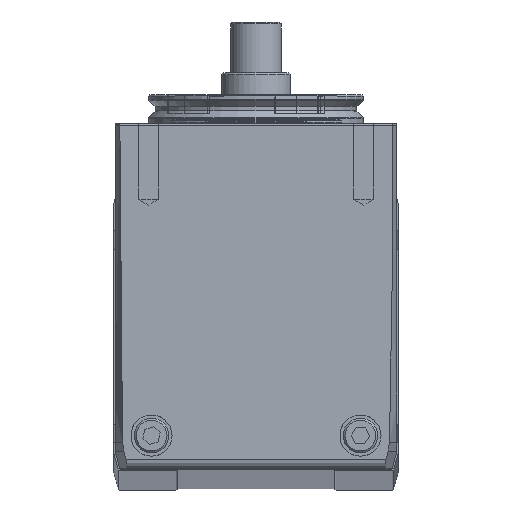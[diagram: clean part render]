
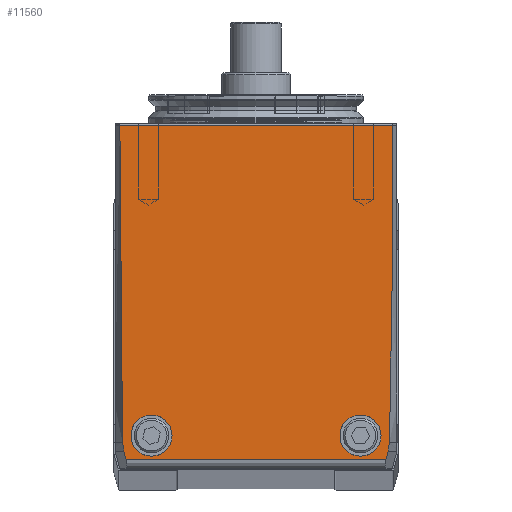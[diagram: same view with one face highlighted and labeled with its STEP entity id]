
A CAD part, top view. The second image highlights one B-rep face of the part: STEP entity #11560.
In plain terms, the highlighted planar face has unit normal (0, 0, 1) as drawn and (0, 1, 0) by its records, which use the part's own axes.
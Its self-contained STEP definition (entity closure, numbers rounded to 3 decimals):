
#118=B_SPLINE_CURVE_WITH_KNOTS('',3,(#24214,#24215,#24216,#24217),
 .UNSPECIFIED.,.F.,.F.,(4,4),(0.,0.001),.UNSPECIFIED.);
#119=B_SPLINE_CURVE_WITH_KNOTS('',3,(#24219,#24220,#24221,#24222,#24223,
#24224,#24225,#24226,#24227,#24228,#24229,#24230),.UNSPECIFIED.,.F.,.F.,
(4,1,1,1,1,1,1,1,1,4),(0.,0.003,0.006,0.008,
0.009,0.013,0.019,0.025,
0.038,0.05),.UNSPECIFIED.);
#120=B_SPLINE_CURVE_WITH_KNOTS('',3,(#24231,#24232,#24233,#24234,#24235,
#24236,#24237,#24238,#24239,#24240,#24241,#24242),.UNSPECIFIED.,.F.,.F.,
(4,1,1,1,1,1,1,1,1,4),(0.,0.013,0.025,0.031,
0.038,0.041,0.042,0.044,
0.047,0.05),.UNSPECIFIED.);
#121=B_SPLINE_CURVE_WITH_KNOTS('',3,(#24244,#24245,#24246,#24247),
 .UNSPECIFIED.,.F.,.F.,(4,4),(0.,0.001),.UNSPECIFIED.);
#930=CIRCLE('',#17012,3.25);
#931=CIRCLE('',#17013,3.25);
#3546=ORIENTED_EDGE('',*,*,#5566,.T.);
#3547=ORIENTED_EDGE('',*,*,#5567,.T.);
#3548=ORIENTED_EDGE('',*,*,#5568,.T.);
#3549=ORIENTED_EDGE('',*,*,#5569,.T.);
#3550=ORIENTED_EDGE('',*,*,#5570,.T.);
#3551=ORIENTED_EDGE('',*,*,#5571,.T.);
#3552=ORIENTED_EDGE('',*,*,#5557,.F.);
#3553=ORIENTED_EDGE('',*,*,#5572,.T.);
#3554=ORIENTED_EDGE('',*,*,#5573,.T.);
#3555=ORIENTED_EDGE('',*,*,#5574,.T.);
#5557=EDGE_CURVE('',#6797,#6798,#7768,.T.);
#5566=EDGE_CURVE('',#6805,#6805,#930,.T.);
#5567=EDGE_CURVE('',#6806,#6806,#931,.T.);
#5568=EDGE_CURVE('',#6807,#6808,#7775,.T.);
#5569=EDGE_CURVE('',#6808,#6809,#7776,.T.);
#5570=EDGE_CURVE('',#6809,#6810,#118,.T.);
#5571=EDGE_CURVE('',#6810,#6798,#119,.T.);
#5572=EDGE_CURVE('',#6797,#6811,#120,.T.);
#5573=EDGE_CURVE('',#6811,#6812,#121,.T.);
#5574=EDGE_CURVE('',#6812,#6807,#7777,.T.);
#6797=VERTEX_POINT('',#24187);
#6798=VERTEX_POINT('',#24188);
#6805=VERTEX_POINT('',#24206);
#6806=VERTEX_POINT('',#24208);
#6807=VERTEX_POINT('',#24210);
#6808=VERTEX_POINT('',#24211);
#6809=VERTEX_POINT('',#24213);
#6810=VERTEX_POINT('',#24218);
#6811=VERTEX_POINT('',#24243);
#6812=VERTEX_POINT('',#24248);
#7768=LINE('',#24186,#8718);
#7775=LINE('',#24209,#8725);
#7776=LINE('',#24212,#8726);
#7777=LINE('',#24249,#8727);
#8718=VECTOR('',#19941,1000.);
#8725=VECTOR('',#19960,1000.);
#8726=VECTOR('',#19961,1000.);
#8727=VECTOR('',#19962,1000.);
#9550=EDGE_LOOP('',(#3546));
#9551=EDGE_LOOP('',(#3547));
#9552=EDGE_LOOP('',(#3548,#3549,#3550,#3551,#3552,#3553,#3554,#3555));
#10464=FACE_BOUND('',#9550,.T.);
#10465=FACE_BOUND('',#9551,.T.);
#10466=FACE_BOUND('',#9552,.T.);
#10974=PLANE('',#17011);
#11560=ADVANCED_FACE('',(#10464,#10465,#10466),#10974,.F.);
#17011=AXIS2_PLACEMENT_3D('',#24204,#19954,#19955);
#17012=AXIS2_PLACEMENT_3D('',#24205,#19956,#19957);
#17013=AXIS2_PLACEMENT_3D('',#24207,#19958,#19959);
#19941=DIRECTION('',(0.,0.,-1.));
#19954=DIRECTION('',(0.,-1.,0.));
#19955=DIRECTION('',(0.,0.,-1.));
#19956=DIRECTION('',(0.,-1.,0.));
#19957=DIRECTION('',(0.,0.,-1.));
#19958=DIRECTION('',(0.,-1.,0.));
#19959=DIRECTION('',(0.,0.,-1.));
#19960=DIRECTION('',(0.,0.,-1.));
#19961=DIRECTION('',(-0.966,0.,-0.259));
#19962=DIRECTION('',(0.966,0.,-0.259));
#24186=CARTESIAN_POINT('',(0.3,22.25,22.25));
#24187=CARTESIAN_POINT('',(0.3,22.25,21.5));
#24188=CARTESIAN_POINT('',(0.3,22.25,-21.5));
#24204=CARTESIAN_POINT('',(54.6,22.25,-21.5));
#24205=CARTESIAN_POINT('',(49.35,22.25,16.5));
#24206=CARTESIAN_POINT('',(49.35,22.25,13.25));
#24207=CARTESIAN_POINT('',(49.35,22.25,-16.5));
#24208=CARTESIAN_POINT('',(49.35,22.25,-19.75));
#24209=CARTESIAN_POINT('',(53.1,22.25,22.25));
#24210=CARTESIAN_POINT('',(53.1,22.25,20.526));
#24211=CARTESIAN_POINT('',(53.1,22.25,-20.526));
#24212=CARTESIAN_POINT('',(54.256,22.25,-20.216));
#24213=CARTESIAN_POINT('',(51.801,22.25,-20.874));
#24214=CARTESIAN_POINT('',(51.802,22.25,-20.875));
#24215=CARTESIAN_POINT('',(51.349,22.25,-20.994));
#24216=CARTESIAN_POINT('',(50.883,22.25,-21.051));
#24217=CARTESIAN_POINT('',(50.416,22.25,-21.082));
#24218=CARTESIAN_POINT('',(50.416,22.25,-21.082));
#24219=CARTESIAN_POINT('',(50.416,22.25,-21.082));
#24220=CARTESIAN_POINT('',(49.374,22.25,-21.157));
#24221=CARTESIAN_POINT('',(47.29,22.25,-21.295));
#24222=CARTESIAN_POINT('',(44.687,22.25,-21.525));
#24223=CARTESIAN_POINT('',(42.597,22.25,-21.495));
#24224=CARTESIAN_POINT('',(40.508,22.25,-21.502));
#24225=CARTESIAN_POINT('',(36.853,22.25,-21.498));
#24226=CARTESIAN_POINT('',(31.631,22.25,-21.5));
#24227=CARTESIAN_POINT('',(23.276,22.25,-21.499));
#24228=CARTESIAN_POINT('',(12.832,22.25,-21.5));
#24229=CARTESIAN_POINT('',(4.477,22.25,-21.5));
#24230=CARTESIAN_POINT('',(0.3,22.25,-21.5));
#24231=CARTESIAN_POINT('',(0.3,22.25,21.5));
#24232=CARTESIAN_POINT('',(4.477,22.25,21.5));
#24233=CARTESIAN_POINT('',(12.831,22.25,21.5));
#24234=CARTESIAN_POINT('',(23.273,22.25,21.499));
#24235=CARTESIAN_POINT('',(31.627,22.25,21.5));
#24236=CARTESIAN_POINT('',(36.848,22.25,21.498));
#24237=CARTESIAN_POINT('',(40.503,22.25,21.502));
#24238=CARTESIAN_POINT('',(42.591,22.25,21.495));
#24239=CARTESIAN_POINT('',(44.68,22.25,21.525));
#24240=CARTESIAN_POINT('',(47.287,22.25,21.296));
#24241=CARTESIAN_POINT('',(49.373,22.25,21.157));
#24242=CARTESIAN_POINT('',(50.416,22.25,21.082));
#24243=CARTESIAN_POINT('',(50.416,22.25,21.082));
#24244=CARTESIAN_POINT('',(50.416,22.25,21.082));
#24245=CARTESIAN_POINT('',(50.883,22.25,21.051));
#24246=CARTESIAN_POINT('',(51.349,22.25,20.994));
#24247=CARTESIAN_POINT('',(51.802,22.25,20.875));
#24248=CARTESIAN_POINT('',(51.801,22.25,20.874));
#24249=CARTESIAN_POINT('',(64.999,22.25,17.34));
